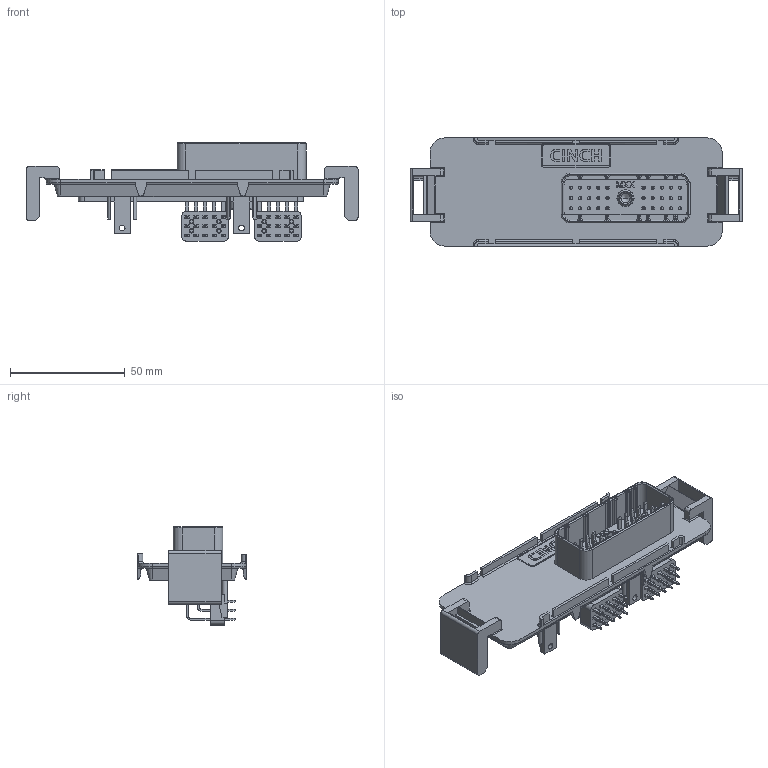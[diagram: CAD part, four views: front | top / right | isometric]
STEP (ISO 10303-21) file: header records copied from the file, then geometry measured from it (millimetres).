
FILE_DESCRIPTION((''),'2;1');
FILE_NAME('5810130046_ASM','2008-07-08T',('eake'),(''),'PRO/ENGINEER BY PARAMETRIC TECHNOLOGY CORPORATION, 2005451','PRO/ENGINEER BY PARAMETRIC TECHNOLOGY CORPORATION, 2005451','');
FILE_SCHEMA(('CONFIG_CONTROL_DESIGN'));
Length unit declared in the file: inch
Products named in the file (10): FOR4828770155; 4624111583HEX; 4828770155_ASM; 4040011205_TYPE1; 4040011206_TYPE2; 4040011207_TYPE3; 4741199176; 4630899118; 5810148005_15PIN_EPOXY; 5810130046_ASM
Assembly tree (38 placements, depth 3):
  5810130046_ASM
    4828770155_ASM
      FOR4828770155
      4624111583HEX
    4040011205_TYPE1  x10
    4040011206_TYPE2  x10
    4040011207_TYPE3  x10
    4741199176  x2
    4630899118
    5810148005_15PIN_EPOXY  x2
Bounding box: 144.78 x 47.12 x 42.97 mm (x, y, z)
Volume: 38114.9 mm3; surface area: 51228 mm2
Topology: 37 solids, 37 shells, 3654 faces, 10033 edges, 6410 vertices
Faces by surface type: plane 2470, cylinder 1080, torus 46, sphere 24, bspline 24, cone 10
Entity records: 66045 total; most frequent: CARTESIAN_POINT 13989, ORIENTED_EDGE 10930, DIRECTION 10592, EDGE_CURVE 5465, VECTOR 4014, LINE 4014, VERTEX_POINT 3478, AXIS2_PLACEMENT_3D 3289
